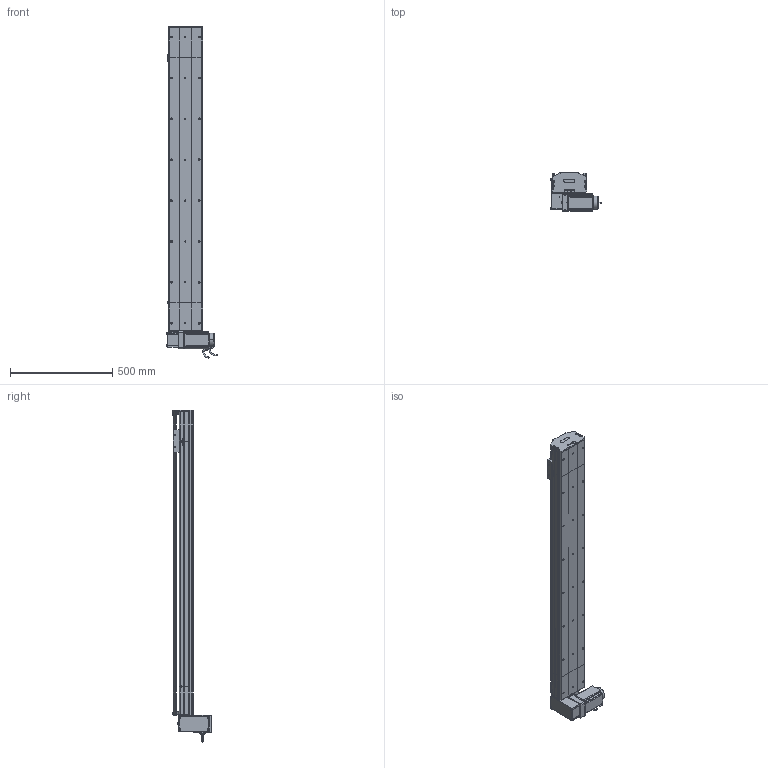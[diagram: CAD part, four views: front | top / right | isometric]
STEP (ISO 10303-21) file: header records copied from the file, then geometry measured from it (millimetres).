
FILE_DESCRIPTION (( 'STEP AP214' ), '1' );
FILE_NAME ('D17 TBN RU S1200.STEP', '2010-06-30T10:48:29', ( 'Christophe Gaillard' ), ( 'SGA' ), 'SwSTEP 2.0', 'SolidWorks 2010', '' );
FILE_SCHEMA (( 'AUTOMOTIVE_DESIGN' ));
Length unit declared in the file: millimetre
Products named in the file (40): course 1200 D17B_Default; D17 TBN RU S1200; Couroie+ rail D17 Course 200 ; cache D17_Default; corp D17B 1200_Default; couvercle D17B course L1200_Default; Arbre+rail head D17B; vis M5 L5_Default; couvercle D17B head_Default; corpl head D17 _Default; Head RU D17B_Default; plaque de  bout head D17B RU_Default; Moteur motionking 90BLDC125A-640; poulie head_Default; avant 90BLDC125A-640; couroie head D17_Default; Conecteur2_Default; codeur 90BLDC125-640; corps 90BLDC125A-640; vis M5 L70_Default; Plaque racord D17_Default; Conecteur_Default; tete d''axe poulie D17B; Vis M5 L16-2_Default; vis M5 L16_Default; cache arbre D17_Default; Tail D17B_Default; corpl tail D17B_Default; Renvoi RU_Default; Rail D17B; poulie tail_Default; couvercle D17B_Default; plaque de  bout tail D17B_Default; Couroie tail D17B_Default; vis M5 L25_Default; guide D17; vis M5 L12_Default; Chariot D17 TBN; chariot D17 TBN; vis M5 L8 90°_Default
Assembly tree (66 placements, depth 4):
  D17 TBN RU S1200
    Head RU D17B_Default
      vis M5 L12_Default  x8
      Arbre+rail head D17B
      vis M5 L5_Default  x4
      poulie head_Default
      vis M5 L16_Default  x2
      Vis M5 L16-2_Default  x4
      Plaque racord D17_Default
      vis M5 L25_Default  x2
      vis M5 L70_Default  x4
      couroie head D17_Default
      couvercle D17B head_Default
      corpl head D17 _Default
      Renvoi RU_Default
      cache arbre D17_Default
      plaque de  bout head D17B RU_Default
      cache D17_Default  x2
      Moteur motionking 90BLDC125A-640
        codeur 90BLDC125-640
        avant 90BLDC125A-640
        corps 90BLDC125A-640
        Conecteur_Default
        Conecteur2_Default
    course 1200 D17B_Default
      Couroie+ rail D17 Course 200 
      couvercle D17B course L1200_Default
      corp D17B 1200_Default
    Tail D17B_Default
      couvercle D17B_Default
      vis M5 L25_Default  x2
      corpl tail D17B_Default
      vis M5 L12_Default  x4
      tete d''axe poulie D17B
      poulie tail_Default
      vis M5 L8 90°_Default  x2
      Couroie tail D17B_Default
      Rail D17B
      plaque de  bout tail D17B_Default
    chariot D17 TBN
      guide D17  x2
      Chariot D17 TBN
Bounding box: 245.2 x 188.65 x 1623.95 mm (x, y, z)
Volume: 10038914.2 mm3; surface area: 2834235.1 mm2
Topology: 89 solids, 89 shells, 2543 faces, 6429 edges, 4146 vertices
Faces by surface type: plane 1533, cylinder 713, bspline 136, cone 80, torus 77, sphere 4
Entity records: 81875 total; most frequent: CARTESIAN_POINT 24555, ORIENTED_EDGE 10030, DIRECTION 9492, EDGE_CURVE 5015, LINE 3378, VECTOR 3378, VERTEX_POINT 3290, AXIS2_PLACEMENT_3D 3057
